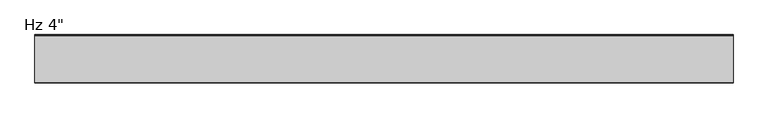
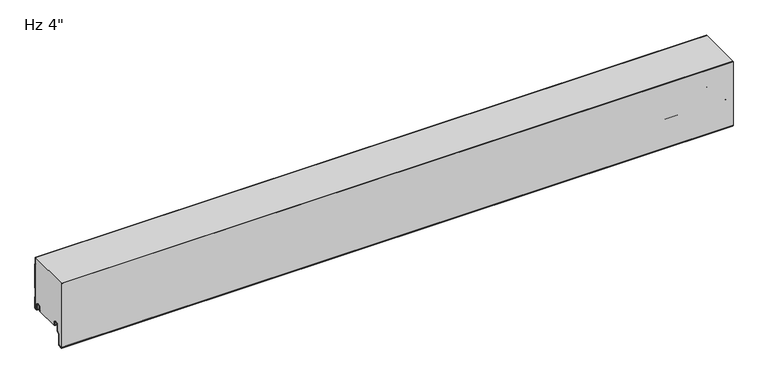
"""IFC4 building model written with IfcOpenShell, lengths in millimetres: plate geometry."""

from ifc_helpers import new_model, si_unit, point, frame, frame_2d, origin, place, context, project, spatial, polyline, circle_curve, trimmed, segment, composite_curve, outline, extrude, source, transform, mapped, element, save
from ifc_brep_helpers import plane_surface, cylinder_surface, revolved_surface, advanced_brep


def plate_083fe748(model_context):
    return source(origin(), model_context, "Body", "SolidModel", [
        advanced_brep(
        [(-730.0, -17.0015159, 2.0313088), (-730.0, -18.0015191, 1.0313116), (-730.0, -19.0015105, 2.0313088), (-730.0, -19.0015105, 6.0315125), (-730.0, -18.0015159, 6.0315125), (-730.0, -18.0015159, 8.7237223), (-730.0, -14.7015202, 12.023718), (-730.0, -10.301529, 12.023718), (-730.0, -7.0015335, 8.7237225), (-730.0, -7.0015335, -1.6962564), (-730.0, -5.2315393, -3.4662506), (-730.0, -0.9999916, -3.4662506), (-730.0, -0.9999916, 21.034026), (-730.0, -2.2002307, 22.4196686), (-730.0, -2.2002307, 41.7948349), (-730.0, -1.0, 43.1804679), (-730.0, -1.0, 97.2338833), (-730.0, -2.2002307, 98.6195162), (-730.0, -2.2002307, 114.0), (-730.0, -1.2002307, 114.0), (-730.0, -1.2002307, 98.9923967), (-730.0, -0.3417885, 98.001349), (-730.0, 0.0, 97.0847321), (-730.0, 0.0, 43.329619), (-730.0, -0.3417885, 42.4130021), (-730.0, -1.2002307, 41.4219545), (-730.0, -1.2002307, 22.7925491), (-730.0, -0.3417885, 21.8015014), (-730.0, 0.0, 20.8847931), (-730.0, 8.4e-06, -3.0662545), (-730.0, -1.3999878, -4.4662506), (-730.0, -5.2315393, -4.4662506), (-730.0, -8.0015335, -1.6962564), (-730.0, -8.0015335, 8.7237225), (-730.0, -10.301529, 11.023718), (-730.0, -14.7015202, 11.023718), (-730.0, -17.0015159, 8.7237223), (730.0, -17.0015159, 2.0313088), (730.0, -17.0015159, 8.7237223), (730.0, -14.7015202, 11.023718), (730.0, -10.301529, 11.023718), (730.0, -8.0015335, 8.7237225), (730.0, -8.0015335, -1.6962564), (730.0, -5.2315393, -4.4662506), (730.0, -1.3999878, -4.4662506), (730.0, 8.4e-06, -3.0662545), (730.0, 8.4e-06, 20.8848845), (730.0, -0.3417885, 21.8015014), (730.0, -1.2002307, 22.7925491), (730.0, -1.2002307, 41.4219545), (730.0, -0.3417885, 42.4130021), (730.0, 0.0, 43.329619), (730.0, 0.0, 97.0847321), (730.0, -0.3417885, 98.001349), (730.0, -1.2002307, 98.9923967), (730.0, -1.2002307, 114.0), (730.0, -2.2002307, 114.0), (730.0, -2.2002307, 98.6195162), (730.0, -1.0, 97.2338833), (730.0, -1.0, 43.1804679), (730.0, -2.2002307, 41.7948349), (730.0, -2.2002307, 22.4196686), (730.0, -0.9999916, 21.034026), (730.0, -0.9999916, -3.4662506), (730.0, -5.2315393, -3.4662506), (730.0, -7.0015335, -1.6962564), (730.0, -7.0015335, 8.7237225), (730.0, -10.301529, 12.023718), (730.0, -14.7015202, 12.023718), (730.0, -18.0015159, 8.7237223), (730.0, -18.0015159, 6.0315125), (730.0, -19.0015105, 6.0315125), (730.0, -19.0015105, 2.0313088), (730.0, -18.0015192, 1.0313116)],
        [
            (0, 1, circle_curve(frame((-730.0, -18.0015132, 2.0313088), z_axis=(-1.0, 0.0, 0.0), x_axis=(0.0, 0.0, 1.0)), 0.9999973)),
            (1, 2, circle_curve(frame((-730.0, -18.0015133, 2.0313088), z_axis=(-1.0, 0.0, 0.0), x_axis=(0.0, 0.0, 1.0)), 0.9999972)),
            (2, 3),
            (3, 4),
            (4, 5),
            (5, 6, circle_curve(frame((-730.0, -14.7015202, 8.7237223), z_axis=(-1.0, 0.0, 0.0), x_axis=(0.0, 0.0, 1.0)), 3.2999957)),
            (6, 7),
            (7, 8, circle_curve(frame((-730.0, -10.301529, 8.7237225), z_axis=(-1.0, 0.0, 0.0), x_axis=(0.0, 0.0, 1.0)), 3.2999955)),
            (8, 9),
            (9, 10, circle_curve(frame((-730.0, -5.2315393, -1.6962564), z_axis=(1.0, 0.0, 0.0), x_axis=(0.0, 0.0, 1.0)), 1.7699942)),
            (10, 11),
            (11, 12),
            (12, 13),
            (13, 14),
            (14, 15),
            (15, 16),
            (16, 17),
            (17, 18),
            (18, 19),
            (19, 20),
            (20, 21),
            (21, 22, circle_curve(frame((-730.0, -1.3999972, 97.0847321), z_axis=(-1.0, 0.0, 0.0), x_axis=(0.0, 0.0, 1.0)), 1.3999972)),
            (22, 23),
            (23, 24, circle_curve(frame((-730.0, -1.3999972, 43.329619), z_axis=(-1.0, 0.0, 0.0), x_axis=(0.0, 0.0, 1.0)), 1.3999972)),
            (24, 25),
            (25, 26),
            (26, 27),
            (27, 28, circle_curve(frame((-730.0, -1.3999972, 20.8848845), z_axis=(-1.0, 0.0, 0.0), x_axis=(0.0, 0.0, 1.0)), 1.3999972)),
            (28, 29),
            (29, 30, circle_curve(frame((-730.0, -1.3999878, -3.0662545), z_axis=(-1.0, 0.0, 0.0), x_axis=(0.0, 0.0, 1.0)), 1.3999962)),
            (30, 31),
            (31, 32, circle_curve(frame((-730.0, -5.2315393, -1.6962564), z_axis=(-1.0, 0.0, 0.0), x_axis=(0.0, 0.0, 1.0)), 2.7699942)),
            (32, 33),
            (33, 34, circle_curve(frame((-730.0, -10.301529, 8.7237225), z_axis=(1.0, 0.0, 0.0), x_axis=(0.0, 0.0, 1.0)), 2.2999955)),
            (34, 35),
            (35, 36, circle_curve(frame((-730.0, -14.7015202, 8.7237223), z_axis=(1.0, 0.0, 0.0), x_axis=(0.0, 0.0, 1.0)), 2.2999957)),
            (36, 0),
            (37, 38),
            (38, 39, circle_curve(frame((730.0, -14.7015202, 8.7237223), z_axis=(-1.0, 0.0, 0.0), x_axis=(0.0, 0.0, 1.0)), 2.2999957)),
            (39, 40),
            (40, 41, circle_curve(frame((730.0, -10.301529, 8.7237225), z_axis=(-1.0, 0.0, 0.0), x_axis=(0.0, 0.0, 1.0)), 2.2999955)),
            (41, 42),
            (42, 43, circle_curve(frame((730.0, -5.2315393, -1.6962564), z_axis=(1.0, 0.0, 0.0), x_axis=(0.0, 0.0, 1.0)), 2.7699942)),
            (43, 44),
            (44, 45, circle_curve(frame((730.0, -1.3999878, -3.0662545), z_axis=(1.0, 0.0, 0.0), x_axis=(0.0, 0.0, 1.0)), 1.3999962)),
            (45, 46),
            (46, 47, circle_curve(frame((730.0, -1.3999972, 20.8848845), z_axis=(1.0, 0.0, 0.0), x_axis=(0.0, 0.0, 1.0)), 1.3999972)),
            (47, 48),
            (48, 49),
            (49, 50),
            (50, 51, circle_curve(frame((730.0, -1.3999972, 43.329619), z_axis=(1.0, 0.0, 0.0), x_axis=(0.0, 0.0, 1.0)), 1.3999972)),
            (51, 52),
            (52, 53, circle_curve(frame((730.0, -1.3999972, 97.0847321), z_axis=(1.0, 0.0, 0.0), x_axis=(0.0, 0.0, 1.0)), 1.3999972)),
            (53, 54),
            (54, 55),
            (55, 56),
            (56, 57),
            (57, 58),
            (58, 59),
            (59, 60),
            (60, 61),
            (61, 62),
            (62, 63),
            (63, 64),
            (64, 65, circle_curve(frame((730.0, -5.2315393, -1.6962564), z_axis=(-1.0, 0.0, 0.0), x_axis=(0.0, 0.0, 1.0)), 1.7699942)),
            (65, 66),
            (66, 67, circle_curve(frame((730.0, -10.301529, 8.7237225), z_axis=(1.0, 0.0, 0.0), x_axis=(0.0, 0.0, 1.0)), 3.2999955)),
            (67, 68),
            (68, 69, circle_curve(frame((730.0, -14.7015202, 8.7237223), z_axis=(1.0, 0.0, 0.0), x_axis=(0.0, 0.0, 1.0)), 3.2999957)),
            (69, 70),
            (70, 71),
            (71, 72),
            (72, 73, circle_curve(frame((730.0, -18.0015133, 2.0313088), z_axis=(1.0, 0.0, 0.0), x_axis=(0.0, 0.0, 1.0)), 0.9999972)),
            (73, 37, circle_curve(frame((730.0, -18.0015132, 2.0313088), z_axis=(1.0, 0.0, 0.0), x_axis=(0.0, 0.0, 1.0)), 0.9999973)),
            (18, 56),
            (55, 19),
            (36, 38),
            (37, 0),
            (35, 39),
            (34, 40),
            (33, 41),
            (32, 42),
            (31, 43),
            (30, 44),
            (29, 45),
            (28, 46),
            (27, 47),
            (26, 48),
            (25, 49),
            (24, 50),
            (23, 51),
            (22, 52),
            (21, 53),
            (20, 54),
            (17, 57),
            (16, 58),
            (15, 59),
            (14, 60),
            (13, 61),
            (12, 62),
            (11, 63),
            (10, 64),
            (9, 65),
            (8, 66),
            (7, 67),
            (6, 68),
            (5, 69),
            (4, 70),
            (3, 71),
            (2, 72),
            (1, 73),
        ],
        [
            plane_surface(frame((-730.0, 0.0, 381.0), z_axis=(-1.0, 0.0, 0.0), x_axis=(0.0, 1.0, 0.0))),
            plane_surface(frame((730.0, 0.0, 381.0), z_axis=(1.0, 0.0, 0.0), x_axis=(0.0, 1.0, 0.0))),
            plane_surface(frame((730.0, 10.0, 114.0), z_axis=(0.0, 0.0, 1.0), x_axis=(-1.0, 0.0, 0.0))),
            plane_surface(frame((-730.0, -17.0015159, 2.0313088), z_axis=(0.0, 1.0, 0.0), x_axis=(1.0, 0.0, 0.0))),
            revolved_surface(polyline([(730.0, -14.7015202, 11.023718), (-730.0, -14.7015202, 11.023718)]), (-730.0, -14.7015202, 8.7237223), (1.0, 0.0, 0.0)),
            plane_surface(frame((-730.0, -14.7015202, 11.023718), z_axis=(0.0, 0.0, -1.0), x_axis=(1.0, 0.0, 0.0))),
            revolved_surface(polyline([(730.0, -10.301529, 11.023717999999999), (-730.0, -10.301529, 11.023717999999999)]), (-730.0, -10.301529, 8.7237225), (1.0, 0.0, 0.0)),
            plane_surface(frame((-730.0, -8.0015335, 8.7237225), z_axis=(0.0, -1.0, 0.0), x_axis=(1.0, 0.0, 0.0))),
            cylinder_surface(frame((-730.0, -5.2315393, -1.6962564), z_axis=(-1.0, 0.0, 0.0), x_axis=(0.0, 0.0, 1.0)), 2.7699942),
            plane_surface(frame((-730.0, -5.2315393, -4.4662506), z_axis=(0.0, 0.0, -1.0), x_axis=(1.0, 0.0, 0.0))),
            cylinder_surface(frame((-730.0, -1.3999878, -3.0662545), z_axis=(-1.0, 0.0, 0.0), x_axis=(0.0, 0.0, 1.0)), 1.3999962),
            plane_surface(frame((-730.0, 8.4e-06, -3.0662545), z_axis=(0.0, 1.0, 0.0), x_axis=(1.0, 0.0, 0.0))),
            cylinder_surface(frame((-730.0, -1.3999972, 20.8848845), z_axis=(-1.0, 0.0, 0.0), x_axis=(0.0, 0.0, 1.0)), 1.3999972),
            plane_surface(frame((-730.0, -0.3417885, 21.8015014), z_axis=(0.0, 0.755864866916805, 0.6547276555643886), x_axis=(1.0, 0.0, 0.0))),
            plane_surface(frame((-730.0, -1.2002307, 32.1072518), z_axis=(0.0, 1.0, 0.0), x_axis=(1.0, 0.0, 0.0))),
            plane_surface(frame((-730.0, -1.2002307, 41.4219545), z_axis=(0.0, 0.755864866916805, -0.6547276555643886), x_axis=(1.0, 0.0, 0.0))),
            cylinder_surface(frame((-730.0, -1.3999972, 43.329619), z_axis=(-1.0, 0.0, 0.0), x_axis=(0.0, 0.0, 1.0)), 1.3999972),
            plane_surface(frame((-730.0, 0.0, 43.329619), z_axis=(0.0, 1.0, 0.0), x_axis=(1.0, 0.0, 0.0))),
            cylinder_surface(frame((-730.0, -1.3999972, 97.0847321), z_axis=(-1.0, 0.0, 0.0), x_axis=(0.0, 0.0, 1.0)), 1.3999972),
            plane_surface(frame((-730.0, -0.3417885, 98.001349), z_axis=(0.0, 0.755864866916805, 0.6547276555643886), x_axis=(1.0, 0.0, 0.0))),
            plane_surface(frame((-730.0, -1.2002307, 108.3070994), z_axis=(0.0, 1.0, 0.0), x_axis=(1.0, 0.0, 0.0))),
            plane_surface(frame((-730.0, -2.2002307, 117.9946825), z_axis=(0.0, -1.0, 0.0), x_axis=(1.0, 0.0, 0.0))),
            plane_surface(frame((-730.0, -2.2002307, 98.6195162), z_axis=(0.0, -0.755864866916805, -0.6547276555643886), x_axis=(1.0, 0.0, 0.0))),
            plane_surface(frame((-730.0, -1.0, 97.2338833), z_axis=(0.0, -1.0, 0.0), x_axis=(1.0, 0.0, 0.0))),
            plane_surface(frame((-730.0, -1.0, 43.1804679), z_axis=(0.0, -0.755864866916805, 0.6547276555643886), x_axis=(1.0, 0.0, 0.0))),
            plane_surface(frame((-730.0, -2.2002307, 41.7948349), z_axis=(0.0, -1.0, 0.0), x_axis=(1.0, 0.0, 0.0))),
            plane_surface(frame((-730.0, -2.2002307, 22.4196686), z_axis=(0.0, -0.755864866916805, -0.6547276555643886), x_axis=(1.0, 0.0, 0.0))),
            plane_surface(frame((-730.0, -0.9999916, 21.034026), z_axis=(0.0, -1.0, 0.0), x_axis=(1.0, 0.0, 0.0))),
            plane_surface(frame((-730.0, -0.9999916, -3.4662506), z_axis=(0.0, 0.0, 1.0), x_axis=(1.0, 0.0, 0.0))),
            revolved_surface(polyline([(730.0, -5.2315393, 0.07373779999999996), (-730.0, -5.2315393, 0.07373779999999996)]), (-730.0, -5.2315393, -1.6962564), (1.0, 0.0, 0.0)),
            plane_surface(frame((-730.0, -7.0015335, -1.6962564), z_axis=(0.0, 1.0, 0.0), x_axis=(1.0, 0.0, 0.0))),
            cylinder_surface(frame((-730.0, -10.301529, 8.7237225), z_axis=(-1.0, 0.0, 0.0), x_axis=(0.0, 0.0, 1.0)), 3.2999955),
            plane_surface(frame((-730.0, -10.301529, 12.023718), z_axis=(0.0, 0.0, 1.0), x_axis=(1.0, 0.0, 0.0))),
            cylinder_surface(frame((-730.0, -14.7015202, 8.7237223), z_axis=(-1.0, 0.0, 0.0), x_axis=(0.0, 0.0, 1.0)), 3.2999957),
            plane_surface(frame((-730.0, -18.0015159, 8.7237223), z_axis=(0.0, -1.0, 0.0), x_axis=(1.0, 0.0, 0.0))),
            plane_surface(frame((-730.0, -18.0015159, 6.0315125), z_axis=(0.0, 0.0, 1.0), x_axis=(1.0, 0.0, 0.0))),
            plane_surface(frame((-730.0, -19.0015105, 6.0315125), z_axis=(0.0, -1.0, 0.0), x_axis=(1.0, 0.0, 0.0))),
            cylinder_surface(frame((-730.0, -18.0015133, 2.0313088), z_axis=(-1.0, 0.0, 0.0), x_axis=(0.0, 0.0, 1.0)), 0.9999972),
            cylinder_surface(frame((-730.0, -18.0015132, 2.0313088), z_axis=(-1.0, 0.0, 0.0), x_axis=(0.0, 0.0, 1.0)), 0.9999973),
        ],
        [
            (0, [[1, 2, 3, 4, 5, 6, 7, 8, 9, 10, 11, 12, 13, 14, 15, 16, 17, 18, 19, 20, 21, 22, 23, 24, 25, 26, 27, 28, 29, 30, 31, 32, 33, 34, 35, 36, 37]]),
            (1, [[38, 39, 40, 41, 42, 43, 44, 45, 46, 47, 48, 49, 50, 51, 52, 53, 54, 55, 56, 57, 58, 59, 60, 61, 62, 63, 64, 65, 66, 67, 68, 69, 70, 71, 72, 73, 74]]),
            (2, [[75, -56, 76, -19]]),
            (3, [[77, -38, 78, -37]]),
            (4, [[79, -39, -77, -36]]),
            (5, [[80, -40, -79, -35]]),
            (6, [[81, -41, -80, -34]]),
            (7, [[82, -42, -81, -33]]),
            (8, [[83, -43, -82, -32]]),
            (9, [[84, -44, -83, -31]]),
            (10, [[85, -45, -84, -30]]),
            (11, [[86, -46, -85, -29]]),
            (12, [[87, -47, -86, -28]]),
            (13, [[88, -48, -87, -27]]),
            (14, [[89, -49, -88, -26]]),
            (15, [[90, -50, -89, -25]]),
            (16, [[91, -51, -90, -24]]),
            (17, [[92, -52, -91, -23]]),
            (18, [[93, -53, -92, -22]]),
            (19, [[94, -54, -93, -21]]),
            (20, [[-20, -76, -55, -94]]),
            (21, [[-57, -75, -18, 95]]),
            (22, [[96, -58, -95, -17]]),
            (23, [[97, -59, -96, -16]]),
            (24, [[98, -60, -97, -15]]),
            (25, [[99, -61, -98, -14]]),
            (26, [[100, -62, -99, -13]]),
            (27, [[101, -63, -100, -12]]),
            (28, [[102, -64, -101, -11]]),
            (29, [[103, -65, -102, -10]]),
            (30, [[104, -66, -103, -9]]),
            (31, [[105, -67, -104, -8]]),
            (32, [[106, -68, -105, -7]]),
            (33, [[107, -69, -106, -6]]),
            (34, [[108, -70, -107, -5]]),
            (35, [[109, -71, -108, -4]]),
            (36, [[110, -72, -109, -3]]),
            (37, [[111, -73, -110, -2]]),
            (38, [[-78, -74, -111, -1]]),
        ],
    ),
        extrude(outline(composite_curve([segment(trimmed(circle_curve(frame_2d((-98.0296795, -32.4521105)), 3.5702393), [point((-97.7184091, -36.0087549))], [point((-101.5999188, -32.4521083))], False, "CARTESIAN"), True, "CONTINUOUS"), segment(polyline([(-101.5999188, -32.4521083), (-101.5998251, 114.0), (-100.5993606, 114.0), (-100.5993606, -32.509446)]), True, "CONTINUOUS"), segment(trimmed(circle_curve(frame_2d((-98.0297607, -32.4521176)), 2.5702393), [point((-100.5993606, -32.509446))], [point((-97.8056751, -35.0125699))], True, "CARTESIAN"), True, "CONTINUOUS"), segment(polyline([(-97.8056751, -35.0125699), (-92.8238542, -34.5765709)]), True, "CONTINUOUS"), segment(trimmed(circle_curve(frame_2d((-93.3052448, -31.9198392)), 2.6999926), [point((-92.8238542, -34.5765709))], [point((-90.6052522, -31.9198392))], True, "CARTESIAN"), True, "CONTINUOUS"), segment(polyline([(-90.6052522, -31.9198392), (-90.6052522, -9.8247096), (-85.1031811, -4.3226385)]), True, "CONTINUOUS"), segment(trimmed(circle_curve(frame_2d((-86.3052588, -3.1205608)), 1.6999946), [point((-85.1031811, -4.3226385))], [point((-84.6052642, -3.1205608))], True, "CARTESIAN"), True, "CONTINUOUS"), segment(polyline([(-84.6052642, -3.1205608), (-84.6052642, 8.6903283)]), True, "CONTINUOUS"), segment(trimmed(circle_curve(frame_2d((-81.2552689, 8.6903283)), 3.3499953), [point((-84.6052642, 8.6903283))], [point((-81.2552689, 12.0403236))], False, "CARTESIAN"), True, "CONTINUOUS"), segment(polyline([(-81.2552689, 12.0403236), (-76.8552777, 12.0403236)]), True, "CONTINUOUS"), segment(trimmed(circle_curve(frame_2d((-76.8552777, 8.6903283)), 3.3499953), [point((-76.8552777, 12.0403236))], [point((-73.5052824, 8.6903283))], False, "CARTESIAN"), True, "CONTINUOUS"), segment(polyline([(-73.5052824, 8.6903283), (-73.5052824, 5.9912173), (-72.1068035, 5.9912173), (-72.1068035, 2.2328239)]), True, "CONTINUOUS"), segment(trimmed(circle_curve(frame_2d((-73.3068002, 2.2313092)), 1.1999976), [point((-72.1068035, 2.2328239))], [point((-73.2762782, 1.0316999))], False, "CARTESIAN"), True, "CONTINUOUS"), segment(trimmed(circle_curve(frame_2d((-73.3068002, 2.2313092)), 1.1999976), [point((-73.2762782, 1.0316999))], [point((-74.5052824, 2.1710221))], False, "CARTESIAN"), True, "CONTINUOUS"), segment(polyline([(-74.5052824, 2.1710221), (-74.5052824, 8.6903283)]), True, "CONTINUOUS"), segment(trimmed(circle_curve(frame_2d((-76.8552777, 8.6903283)), 2.3499953), [point((-74.5052824, 8.6903283))], [point((-76.8552777, 11.0403236))], True, "CARTESIAN"), True, "CONTINUOUS"), segment(polyline([(-76.8552777, 11.0403236), (-81.2552689, 11.0403236)]), True, "CONTINUOUS"), segment(trimmed(circle_curve(frame_2d((-81.2552689, 8.6903283)), 2.3499953), [point((-81.2552689, 11.0403236))], [point((-83.6052642, 8.6903283))], True, "CARTESIAN"), True, "CONTINUOUS"), segment(polyline([(-83.6052642, 8.6903283), (-83.6052642, -3.1205608)]), True, "CONTINUOUS"), segment(trimmed(circle_curve(frame_2d((-86.3052588, -3.1205608)), 2.6999946), [point((-83.6052642, -3.1205608))], [point((-84.3960743, -5.0297453))], False, "CARTESIAN"), True, "CONTINUOUS"), segment(polyline([(-84.3960743, -5.0297453), (-89.2244918, -9.8581627)]), True, "CONTINUOUS"), segment(trimmed(circle_curve(frame_2d((-88.3052548, -10.7773997)), 1.2999974), [point((-89.2244918, -9.8581627))], [point((-89.6052522, -10.7773997))], True, "CARTESIAN"), True, "CONTINUOUS"), segment(polyline([(-89.6052522, -10.7773997), (-89.6052522, -31.9198392)]), True, "CONTINUOUS"), segment(trimmed(circle_curve(frame_2d((-93.3052448, -31.9198392)), 3.6999926), [point((-89.6052522, -31.9198392))], [point((-92.6944437, -35.5690675))], False, "CARTESIAN"), True, "CONTINUOUS"), segment(polyline([(-92.6944437, -35.5690675), (-97.7184091, -36.0087549)]), True, "CONTINUOUS")], self_intersect=False)), frame((-730.0, 0.0, 0.0), z_axis=(1.0, 0.0, 0.0), x_axis=(0.0, 1.0, 0.0)), (0.0, 0.0, 1.0), 1460.0),
        advanced_brep(
        [(-730.0, -73.270875, 1.0316999), (-730.0, -72.1014003, 2.2328239), (-730.0, -72.1014003, 5.9912173), (-730.0, -73.4998791, 5.9912173), (-730.0, -73.4998791, 8.6903283), (-730.0, -76.8498744, 12.0403236), (-730.0, -81.2498656, 12.0403236), (-730.0, -84.5998609, 8.6903283), (-730.0, -84.5998609, -3.1205608), (-730.0, -85.0977778, -4.3226385), (-730.0, -90.5998489, -9.8247096), (-730.0, -90.5998489, -31.9198392), (-730.0, -92.8184509, -34.5765709), (-730.0, -97.8002718, -35.0125699), (-730.0, -100.5945967, -32.4521176), (-730.0, -100.6, 114.0), (-730.0, -2.2002307, 114.0), (-730.0, -2.2002307, 98.6195163), (-730.0, -1.0, 97.2338833), (-730.0, -1.0, 43.1804679), (-730.0, -2.2002307, 41.794835), (-730.0, -2.2002307, 22.4196687), (-730.0, -0.9999916, 21.034026), (-730.0, -0.9999916, -3.4662506), (-730.0, -5.2315389, -3.4662506), (-730.0, -7.0015331, -1.6962564), (-730.0, -7.0015331, 8.7237222), (-730.0, -10.301529, 12.023718), (-730.0, -14.7015202, 12.023718), (-730.0, -18.0015159, 8.7237223), (-730.0, -18.0015159, 6.0315125), (-730.0, -19.0015105, 6.0315125), (-730.0, -19.0015105, 2.0313089), (-730.0, -18.0015192, 1.0313117), (-730.0, -19.0328308, 0.0), (-730.0, -72.2391751, 0.0), (730.0, -73.270875, 1.0316999), (730.0, -72.2391751, 0.0), (730.0, -19.0328308, 0.0), (730.0, -18.0015192, 1.0313117), (730.0, -19.0015105, 2.0313089), (730.0, -19.0015105, 6.0315125), (730.0, -18.0015159, 6.0315125), (730.0, -18.0015159, 8.7237223), (730.0, -14.7015202, 12.023718), (730.0, -10.301529, 12.023718), (730.0, -7.0015331, 8.7237222), (730.0, -7.0015331, -1.6962564), (730.0, -5.2315389, -3.4662506), (730.0, -0.9999916, -3.4662506), (730.0, -0.9999916, 21.034026), (730.0, -2.2002307, 22.4196687), (730.0, -2.2002307, 41.794835), (730.0, -1.0, 43.1804679), (730.0, -1.0, 97.2338833), (730.0, -2.2002307, 98.6195163), (730.0, -2.2002307, 114.0), (730.0, -100.6, 114.0), (730.0, -100.6, -32.4521176), (730.0, -97.8002718, -35.0125699), (730.0, -92.8184509, -34.5765709), (730.0, -90.5998489, -31.9198392), (730.0, -90.5998489, -9.8247096), (730.0, -85.0977778, -4.3226385), (730.0, -84.5998609, -3.1205608), (730.0, -84.5998609, 8.6903283), (730.0, -81.2498656, 12.0403236), (730.0, -76.8498744, 12.0403236), (730.0, -73.4998791, 8.6903283), (730.0, -73.4998791, 5.9912173), (730.0, -72.1014003, 5.9912173), (730.0, -72.1014003, 2.2328239)],
        [
            (0, 1, circle_curve(frame((-730.0, -73.3013969, 2.2313092), z_axis=(1.0, 0.0, 0.0), x_axis=(0.0, 0.0, -1.0)), 1.1999976)),
            (1, 2),
            (2, 3),
            (3, 4),
            (4, 5, circle_curve(frame((-730.0, -76.8498744, 8.6903283), z_axis=(1.0, 0.0, 0.0), x_axis=(0.0, 0.0, -1.0)), 3.3499953)),
            (5, 6),
            (6, 7, circle_curve(frame((-730.0, -81.2498656, 8.6903283), z_axis=(1.0, 0.0, 0.0), x_axis=(0.0, 0.0, -1.0)), 3.3499953)),
            (7, 8),
            (8, 9, circle_curve(frame((-730.0, -86.2998555, -3.1205608), z_axis=(-1.0, 0.0, 0.0), x_axis=(0.0, 0.0, -1.0)), 1.6999946)),
            (9, 10),
            (10, 11),
            (11, 12, circle_curve(frame((-730.0, -93.2998415, -31.9198392), z_axis=(-1.0, 0.0, 0.0), x_axis=(0.0, 0.0, -1.0)), 2.6999926)),
            (12, 13),
            (13, 14, circle_curve(frame((-730.0, -98.0243575, -32.4521176), z_axis=(-1.0, 0.0, 0.0), x_axis=(0.0, 0.0, -1.0)), 2.5702393)),
            (14, 15),
            (15, 16),
            (16, 17),
            (17, 18),
            (18, 19),
            (19, 20),
            (20, 21),
            (21, 22),
            (22, 23),
            (23, 24),
            (24, 25, circle_curve(frame((-730.0, -5.2315389, -1.6962564), z_axis=(-1.0, 0.0, 0.0), x_axis=(0.0, 0.0, 1.0)), 1.7699942)),
            (25, 26),
            (26, 27, circle_curve(frame((-730.0, -10.301529, 8.7237222), z_axis=(1.0, 0.0, 0.0), x_axis=(0.0, 0.0, 1.0)), 3.2999959)),
            (27, 28),
            (28, 29, circle_curve(frame((-730.0, -14.7015202, 8.7237223), z_axis=(1.0, 0.0, 0.0), x_axis=(0.0, 0.0, 1.0)), 3.2999957)),
            (29, 30),
            (30, 31),
            (31, 32),
            (32, 33, circle_curve(frame((-730.0, -18.0015133, 2.0313089), z_axis=(1.0, 0.0, 0.0), x_axis=(0.0, 0.0, 1.0)), 0.9999972)),
            (33, 34),
            (34, 35),
            (35, 0),
            (36, 37),
            (37, 38),
            (38, 39),
            (39, 40, circle_curve(frame((730.0, -18.0015133, 2.0313089), z_axis=(-1.0, 0.0, 0.0), x_axis=(0.0, 0.0, 1.0)), 0.9999972)),
            (40, 41),
            (41, 42),
            (42, 43),
            (43, 44, circle_curve(frame((730.0, -14.7015202, 8.7237223), z_axis=(-1.0, 0.0, 0.0), x_axis=(0.0, 0.0, 1.0)), 3.2999957)),
            (44, 45),
            (45, 46, circle_curve(frame((730.0, -10.301529, 8.7237222), z_axis=(-1.0, 0.0, 0.0), x_axis=(0.0, 0.0, 1.0)), 3.2999959)),
            (46, 47),
            (47, 48, circle_curve(frame((730.0, -5.2315389, -1.6962564), z_axis=(1.0, 0.0, 0.0), x_axis=(0.0, 0.0, 1.0)), 1.7699942)),
            (48, 49),
            (49, 50),
            (50, 51),
            (51, 52),
            (52, 53),
            (53, 54),
            (54, 55),
            (55, 56),
            (56, 57),
            (57, 58),
            (58, 59, circle_curve(frame((730.0, -98.0243575, -32.4521176), z_axis=(1.0, 0.0, 0.0), x_axis=(0.0, 0.0, -1.0)), 2.5702393)),
            (59, 60),
            (60, 61, circle_curve(frame((730.0, -93.2998415, -31.9198392), z_axis=(1.0, 0.0, 0.0), x_axis=(0.0, 0.0, -1.0)), 2.6999926)),
            (61, 62),
            (62, 63),
            (63, 64, circle_curve(frame((730.0, -86.2998555, -3.1205608), z_axis=(1.0, 0.0, 0.0), x_axis=(0.0, 0.0, -1.0)), 1.6999946)),
            (64, 65),
            (65, 66, circle_curve(frame((730.0, -81.2498656, 8.6903283), z_axis=(-1.0, 0.0, 0.0), x_axis=(0.0, 0.0, -1.0)), 3.3499953)),
            (66, 67),
            (67, 68, circle_curve(frame((730.0, -76.8498744, 8.6903283), z_axis=(-1.0, 0.0, 0.0), x_axis=(0.0, 0.0, -1.0)), 3.3499953)),
            (68, 69),
            (69, 70),
            (70, 71),
            (71, 36, circle_curve(frame((730.0, -73.3013969, 2.2313092), z_axis=(-1.0, 0.0, 0.0), x_axis=(0.0, 0.0, -1.0)), 1.1999976)),
            (35, 37),
            (36, 0),
            (34, 38),
            (57, 15),
            (14, 58),
            (13, 59),
            (12, 60),
            (11, 61),
            (10, 62),
            (9, 63),
            (8, 64),
            (7, 65),
            (6, 66),
            (5, 67),
            (4, 68),
            (3, 69),
            (2, 70),
            (1, 71),
            (56, 16),
            (33, 39),
            (32, 40),
            (31, 41),
            (30, 42),
            (29, 43),
            (28, 44),
            (27, 45),
            (26, 46),
            (25, 47),
            (24, 48),
            (23, 49),
            (22, 50),
            (21, 51),
            (20, 52),
            (19, 53),
            (18, 54),
            (17, 55),
        ],
        [
            plane_surface(frame((-730.0, -100.6, 381.0), z_axis=(-1.0, 0.0, 0.0), x_axis=(0.0, -1.0, 0.0))),
            plane_surface(frame((730.0, -100.6, 381.0), z_axis=(1.0, 0.0, 0.0), x_axis=(0.0, -1.0, 0.0))),
            plane_surface(frame((-730.0, -73.270875, 1.0316999), z_axis=(0.0, -0.7071067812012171, -0.707106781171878), x_axis=(1.0, 0.0, 0.0))),
            plane_surface(frame((-730.0, -72.2391751, 0.0), z_axis=(0.0, 0.0, -1.0), x_axis=(1.0, 0.0, 0.0))),
            plane_surface(frame((-730.0, -100.6, 713.515622), z_axis=(0.0, -1.0, 0.0), x_axis=(1.0, 0.0, 0.0))),
            cylinder_surface(frame((-730.0, -98.0243575, -32.4521176), z_axis=(-1.0, 0.0, 0.0), x_axis=(0.0, 0.0, -1.0)), 2.5702393),
            plane_surface(frame((-730.0, -97.8002718, -35.0125699), z_axis=(0.0, 0.08718474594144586, -0.9961921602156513), x_axis=(1.0, 0.0, 0.0))),
            cylinder_surface(frame((-730.0, -93.2998415, -31.9198392), z_axis=(-1.0, 0.0, 0.0), x_axis=(0.0, 0.0, -1.0)), 2.6999926),
            plane_surface(frame((-730.0, -90.5998489, -31.9198392), z_axis=(0.0, 1.0, 0.0), x_axis=(1.0, 0.0, 0.0))),
            plane_surface(frame((-730.0, -90.5998489, -9.8247096), z_axis=(0.0, 0.7071067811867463, -0.7071067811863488), x_axis=(1.0, 0.0, 0.0))),
            cylinder_surface(frame((-730.0, -86.2998555, -3.1205608), z_axis=(-1.0, 0.0, 0.0), x_axis=(0.0, 0.0, -1.0)), 1.6999946),
            plane_surface(frame((-730.0, -84.5998609, -3.1205608), z_axis=(0.0, 1.0, 0.0), x_axis=(1.0, 0.0, 0.0))),
            revolved_surface(polyline([(730.0, -81.2498656, 5.340332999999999), (-730.0, -81.2498656, 5.340332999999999)]), (-730.0, -81.2498656, 8.6903283), (1.0, 0.0, 0.0)),
            plane_surface(frame((-730.0, -81.2498656, 12.0403236), z_axis=(0.0, 0.0, -1.0), x_axis=(1.0, 0.0, 0.0))),
            revolved_surface(polyline([(730.0, -76.8498744, 5.340332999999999), (-730.0, -76.8498744, 5.340332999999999)]), (-730.0, -76.8498744, 8.6903283), (1.0, 0.0, 0.0)),
            plane_surface(frame((-730.0, -73.4998791, 8.6903283), z_axis=(0.0, -1.0, 0.0), x_axis=(1.0, 0.0, 0.0))),
            plane_surface(frame((-730.0, -73.4998791, 5.9912173), z_axis=(0.0, 0.0, -1.0), x_axis=(1.0, 0.0, 0.0))),
            plane_surface(frame((-730.0, -72.1014003, 5.9912173), z_axis=(0.0, -1.0, 0.0), x_axis=(1.0, 0.0, 0.0))),
            revolved_surface(polyline([(730.0, -73.3013969, 1.0313116), (-730.0, -73.3013969, 1.0313116)]), (-730.0, -73.3013969, 2.2313092), (1.0, 0.0, 0.0)),
            plane_surface(frame((730.0, 10.0, 114.0), z_axis=(0.0, 0.0, 1.0), x_axis=(-1.0, 0.0, 0.0))),
            plane_surface(frame((-730.0, -19.0328308, 0.0), z_axis=(0.0, 0.7071067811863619, -0.7071067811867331), x_axis=(1.0, 0.0, 0.0))),
            revolved_surface(polyline([(730.0, -18.0015133, 3.0313061), (-730.0, -18.0015133, 3.0313061)]), (-730.0, -18.0015133, 2.0313089), (1.0, 0.0, 0.0)),
            plane_surface(frame((-730.0, -19.0015105, 2.0313089), z_axis=(0.0, 1.0, 0.0), x_axis=(1.0, 0.0, 0.0))),
            plane_surface(frame((-730.0, -19.0015105, 6.0315125), z_axis=(0.0, 0.0, -1.0), x_axis=(1.0, 0.0, 0.0))),
            plane_surface(frame((-730.0, -18.0015159, 6.0315125), z_axis=(0.0, 1.0, 0.0), x_axis=(1.0, 0.0, 0.0))),
            revolved_surface(polyline([(730.0, -14.7015202, 12.023718), (-730.0, -14.7015202, 12.023718)]), (-730.0, -14.7015202, 8.7237223), (1.0, 0.0, 0.0)),
            plane_surface(frame((-730.0, -14.7015202, 12.023718), z_axis=(0.0, 0.0, -1.0), x_axis=(1.0, 0.0, 0.0))),
            revolved_surface(polyline([(730.0, -10.301529, 12.0237181), (-730.0, -10.301529, 12.0237181)]), (-730.0, -10.301529, 8.7237222), (1.0, 0.0, 0.0)),
            plane_surface(frame((-730.0, -7.0015331, 8.7237222), z_axis=(0.0, -1.0, 0.0), x_axis=(1.0, 0.0, 0.0))),
            cylinder_surface(frame((-730.0, -5.2315389, -1.6962564), z_axis=(-1.0, 0.0, 0.0), x_axis=(0.0, 0.0, 1.0)), 1.7699942),
            plane_surface(frame((-730.0, -5.2315389, -3.4662506), z_axis=(0.0, 0.0, -1.0), x_axis=(1.0, 0.0, 0.0))),
            plane_surface(frame((-730.0, -0.9999916, -3.4662506), z_axis=(0.0, 1.0, 0.0), x_axis=(1.0, 0.0, 0.0))),
            plane_surface(frame((-730.0, -0.9999916, 21.034026), z_axis=(0.0, 0.7558648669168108, 0.6547276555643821), x_axis=(1.0, 0.0, 0.0))),
            plane_surface(frame((-730.0, -2.2002307, 22.4196687), z_axis=(0.0, 1.0, 0.0), x_axis=(1.0, 0.0, 0.0))),
            plane_surface(frame((-730.0, -2.2002307, 41.794835), z_axis=(0.0, 0.7558648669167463, -0.6547276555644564), x_axis=(1.0, 0.0, 0.0))),
            plane_surface(frame((-730.0, -1.0, 43.1804679), z_axis=(0.0, 1.0, 0.0), x_axis=(1.0, 0.0, 0.0))),
            plane_surface(frame((-730.0, -1.0, 97.2338833), z_axis=(0.0, 0.7558648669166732, 0.6547276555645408), x_axis=(1.0, 0.0, 0.0))),
            plane_surface(frame((-730.0, -2.2002307, 98.6195163), z_axis=(0.0, 1.0, 0.0), x_axis=(1.0, 0.0, 0.0))),
        ],
        [
            (0, [[1, 2, 3, 4, 5, 6, 7, 8, 9, 10, 11, 12, 13, 14, 15, 16, 17, 18, 19, 20, 21, 22, 23, 24, 25, 26, 27, 28, 29, 30, 31, 32, 33, 34, 35, 36]]),
            (1, [[37, 38, 39, 40, 41, 42, 43, 44, 45, 46, 47, 48, 49, 50, 51, 52, 53, 54, 55, 56, 57, 58, 59, 60, 61, 62, 63, 64, 65, 66, 67, 68, 69, 70, 71, 72]]),
            (2, [[73, -37, 74, -36]]),
            (3, [[-35, 75, -38, -73]]),
            (4, [[-58, 76, -15, 77]]),
            (5, [[78, -59, -77, -14]]),
            (6, [[79, -60, -78, -13]]),
            (7, [[80, -61, -79, -12]]),
            (8, [[81, -62, -80, -11]]),
            (9, [[82, -63, -81, -10]]),
            (10, [[83, -64, -82, -9]]),
            (11, [[84, -65, -83, -8]]),
            (12, [[85, -66, -84, -7]]),
            (13, [[86, -67, -85, -6]]),
            (14, [[87, -68, -86, -5]]),
            (15, [[88, -69, -87, -4]]),
            (16, [[89, -70, -88, -3]]),
            (17, [[90, -71, -89, -2]]),
            (18, [[-74, -72, -90, -1]]),
            (19, [[-76, -57, 91, -16]]),
            (20, [[92, -39, -75, -34]]),
            (21, [[93, -40, -92, -33]]),
            (22, [[94, -41, -93, -32]]),
            (23, [[95, -42, -94, -31]]),
            (24, [[96, -43, -95, -30]]),
            (25, [[97, -44, -96, -29]]),
            (26, [[98, -45, -97, -28]]),
            (27, [[99, -46, -98, -27]]),
            (28, [[100, -47, -99, -26]]),
            (29, [[101, -48, -100, -25]]),
            (30, [[102, -49, -101, -24]]),
            (31, [[103, -50, -102, -23]]),
            (32, [[104, -51, -103, -22]]),
            (33, [[105, -52, -104, -21]]),
            (34, [[106, -53, -105, -20]]),
            (35, [[107, -54, -106, -19]]),
            (36, [[108, -55, -107, -18]]),
            (37, [[-17, -91, -56, -108]]),
        ],
    ),
    ])


if __name__ == "__main__":
    model = new_model("IFC4")
    model_context = context("Model", 3, world=origin())
    ifc_project = project(units=[si_unit("LENGTHUNIT", "METRE", prefix="MILLI")], contexts=[model_context])
    site = spatial("IfcSite", under=ifc_project)
    building = spatial("IfcBuilding", under=site)
    placement = place(None, origin())
    plate_shape = plate_083fe748(model_context)
    element("IfcPlate", 1, ObjectType="KIP-30-Karrier-KP-R19-CP-Hz-FL3-8in_SL : Hz 4\"", at=placement, inside=building, context=model_context, shape_type="MappedRepresentation", body=[
        mapped(plate_shape, transform((0.0, 0.0, 0.0), x_axis=(1.0, 0.0, 0.0), y_axis=(0.0, 1.0, 0.0), z_axis=(0.0, 0.0, 1.0))),
    ])
    save(model, "model.ifc")
